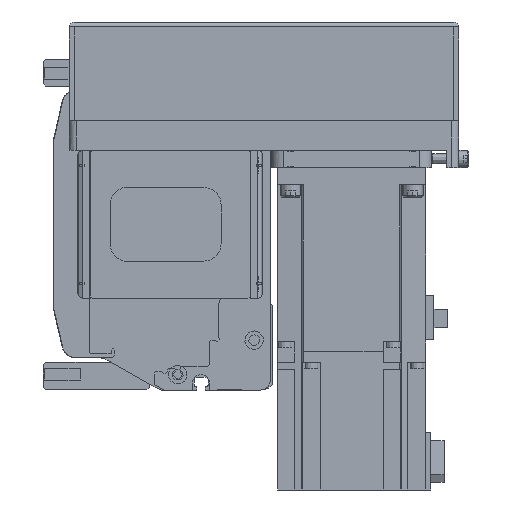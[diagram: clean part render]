
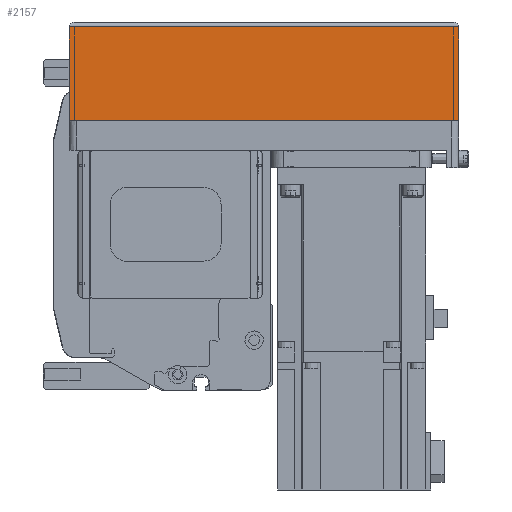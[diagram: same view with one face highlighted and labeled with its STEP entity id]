
A CAD part, left-side view. The second image highlights one B-rep face of the part: STEP entity #2157.
In plain terms, the highlighted planar face has unit normal (-1, 0, 0) as drawn and (0, -1, 0) by its records, which use the part's own axes.
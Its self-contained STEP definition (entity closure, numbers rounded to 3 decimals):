
#2157 = ADVANCED_FACE( '', ( #5124 ), #5125, .T. );
#5124 = FACE_OUTER_BOUND( '', #9124, .T. );
#5125 = PLANE( '', #9125 );
#9124 = EDGE_LOOP( '', ( #15087, #15088, #15089, #15090 ) );
#9125 = AXIS2_PLACEMENT_3D( '', #15091, #15092, #15093 );
#15087 = ORIENTED_EDGE( '', *, *, #23938, .F. );
#15088 = ORIENTED_EDGE( '', *, *, #23939, .F. );
#15089 = ORIENTED_EDGE( '', *, *, #23940, .T. );
#15090 = ORIENTED_EDGE( '', *, *, #23292, .T. );
#15091 = CARTESIAN_POINT( '', ( -158., -39., -12.1 ) );
#15092 = DIRECTION( '', ( 0., -1., 0. ) );
#15093 = DIRECTION( '', ( 0., 0., -1. ) );
#23292 = EDGE_CURVE( '', #28147, #28151, #28153, .T. );
#23938 = EDGE_CURVE( '', #29175, #28151, #29176, .T. );
#23939 = EDGE_CURVE( '', #29177, #29175, #29178, .T. );
#23940 = EDGE_CURVE( '', #29177, #28147, #29179, .T. );
#28147 = VERTEX_POINT( '', #35236 );
#28151 = VERTEX_POINT( '', #35241 );
#28153 = LINE( '', #35243, #35244 );
#29175 = VERTEX_POINT( '', #36868 );
#29176 = LINE( '', #36869, #36870 );
#29177 = VERTEX_POINT( '', #36871 );
#29178 = LINE( '', #36872, #36873 );
#29179 = LINE( '', #36874, #36875 );
#35236 = CARTESIAN_POINT( '', ( -158., -39., -50. ) );
#35241 = CARTESIAN_POINT( '', ( 0., -39., -50. ) );
#35243 = CARTESIAN_POINT( '', ( -158., -39., -50. ) );
#35244 = VECTOR( '', #43204, 1000. );
#36868 = CARTESIAN_POINT( '', ( 0., -39., -12.1 ) );
#36869 = CARTESIAN_POINT( '', ( 0., -39., -12.1 ) );
#36870 = VECTOR( '', #43994, 1000. );
#36871 = CARTESIAN_POINT( '', ( -158., -39., -12.1 ) );
#36872 = CARTESIAN_POINT( '', ( -158., -39., -12.1 ) );
#36873 = VECTOR( '', #43995, 1000. );
#36874 = CARTESIAN_POINT( '', ( -158., -39., -12.1 ) );
#36875 = VECTOR( '', #43996, 1000. );
#43204 = DIRECTION( '', ( 1., 0., 0. ) );
#43994 = DIRECTION( '', ( 0., 0., -1. ) );
#43995 = DIRECTION( '', ( 1., 0., 0. ) );
#43996 = DIRECTION( '', ( 0., 0., -1. ) );
